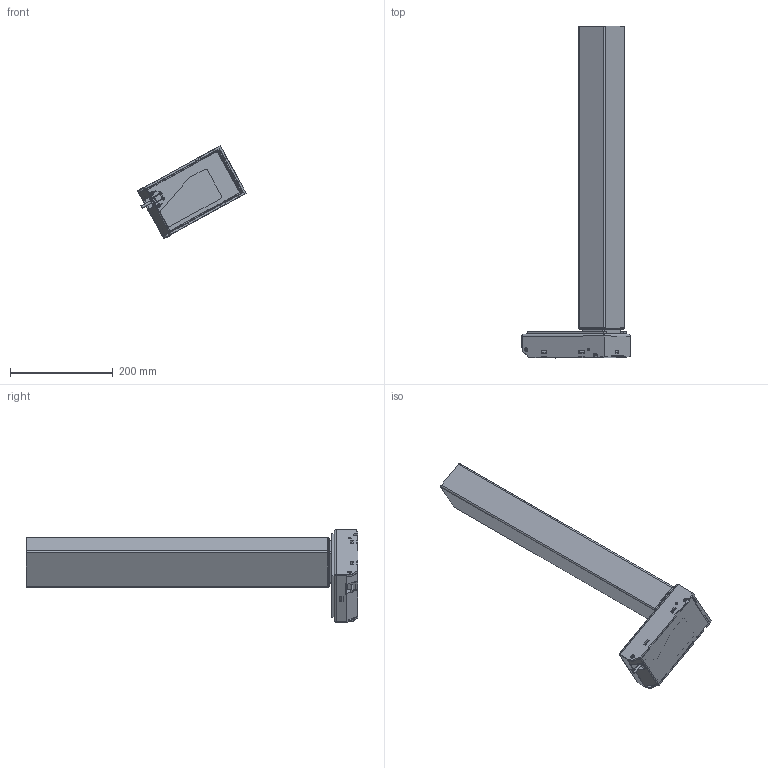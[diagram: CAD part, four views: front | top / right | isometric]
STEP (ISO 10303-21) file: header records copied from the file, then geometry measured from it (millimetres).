
FILE_DESCRIPTION (( 'STEP AP203' ), '1' );
FILE_NAME ('3D_TL15.STEP', '2020-05-21T06:21:26', ( '' ), ( '' ), 'SwSTEP 2.0', 'SolidWorks 2015', '' );
FILE_SCHEMA (( 'CONFIG_CONTROL_DESIGN' ));
Length unit declared in the file: millimetre
Products named in the file (1): 3D_TL15
Bounding box: 210.59 x 645 x 179.7 mm (x, y, z)
Volume: 847880.5 mm3; surface area: 724163 mm2
Topology: 5 solids, 5 shells, 1151 faces, 2965 edges, 1750 vertices
Faces by surface type: cylinder 526, plane 413, sphere 73, torus 62, bspline 57, cone 20
Entity records: 35590 total; most frequent: CARTESIAN_POINT 8216, DIRECTION 5779, ORIENTED_EDGE 5766, EDGE_CURVE 2883, AXIS2_PLACEMENT_3D 2051, VERTEX_POINT 1750, VECTOR 1677, LINE 1677
